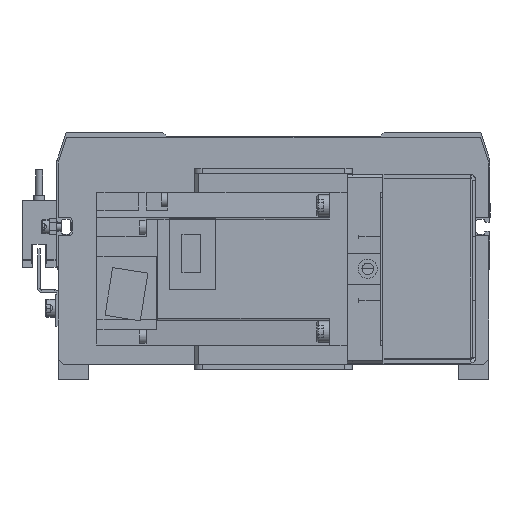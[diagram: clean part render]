
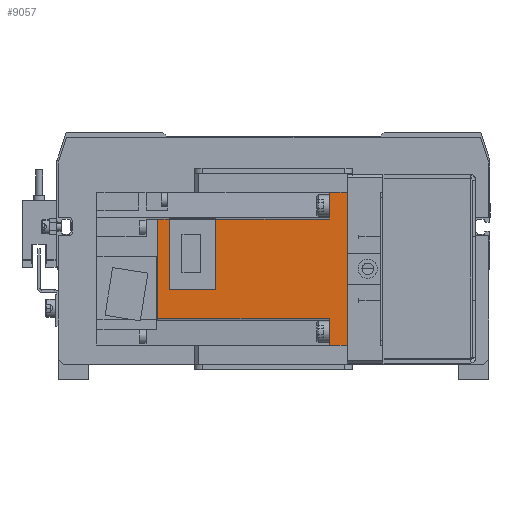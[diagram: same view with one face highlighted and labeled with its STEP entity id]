
A CAD part, front view. The second image highlights one B-rep face of the part: STEP entity #9057.
In plain terms, the highlighted planar face has unit normal (0, -1, 0) as drawn and (1, 0, 0) by its records, which use the part's own axes.
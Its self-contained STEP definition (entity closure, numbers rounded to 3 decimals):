
#1043 = CARTESIAN_POINT ( 'NONE',  ( 30., 0., 30. ) ) ;
#1517 = ORIENTED_EDGE ( 'NONE', *, *, #30009, .F. ) ;
#2231 = LINE ( 'NONE', #39860, #13606 ) ;
#2483 = LINE ( 'NONE', #10497, #6427 ) ;
#2594 = ORIENTED_EDGE ( 'NONE', *, *, #16752, .F. ) ;
#2647 = ORIENTED_EDGE ( 'NONE', *, *, #28562, .F. ) ;
#3951 = CARTESIAN_POINT ( 'NONE',  ( 30., 69.85, 30. ) ) ;
#4611 = LINE ( 'NONE', #23473, #18460 ) ;
#4969 = CARTESIAN_POINT ( 'NONE',  ( 30., 74.5, -19.515 ) ) ;
#5123 = CARTESIAN_POINT ( 'NONE',  ( 30., 69.85, 8. ) ) ;
#6052 = DIRECTION ( 'NONE',  ( 0., 1., 0. ) ) ;
#6427 = VECTOR ( 'NONE', #26511, 1000. ) ;
#6917 = CARTESIAN_POINT ( 'NONE',  ( 30., 7., -30. ) ) ;
#7050 = ORIENTED_EDGE ( 'NONE', *, *, #17536, .F. ) ;
#7630 = DIRECTION ( 'NONE',  ( -1., 0., 0. ) ) ;
#7981 = EDGE_CURVE ( 'NONE', #9200, #20593, #2231, .T. ) ;
#8188 = EDGE_CURVE ( 'NONE', #37064, #9200, #14621, .T. ) ;
#8826 = LINE ( 'NONE', #31583, #36956 ) ;
#9057 = ADVANCED_FACE ( 'NONE', ( #35769 ), #11059, .F. ) ;
#9200 = VERTEX_POINT ( 'NONE', #4969 ) ;
#9651 = VERTEX_POINT ( 'NONE', #20143 ) ;
#9718 = DIRECTION ( 'NONE',  ( 0., 0., -1. ) ) ;
#10448 = CARTESIAN_POINT ( 'NONE',  ( 30., 0., 0. ) ) ;
#10497 = CARTESIAN_POINT ( 'NONE',  ( 30., 7., 30. ) ) ;
#11044 = CARTESIAN_POINT ( 'NONE',  ( 30., 74.5, -30. ) ) ;
#11059 = PLANE ( 'NONE',  #19774 ) ;
#11085 = ORIENTED_EDGE ( 'NONE', *, *, #7981, .F. ) ;
#12065 = CARTESIAN_POINT ( 'NONE',  ( 30., 51.7, -19.515 ) ) ;
#12082 = VERTEX_POINT ( 'NONE', #1043 ) ;
#13204 = DIRECTION ( 'NONE',  ( 0., 0., -1. ) ) ;
#13256 = LINE ( 'NONE', #26354, #40924 ) ;
#13606 = VECTOR ( 'NONE', #36659, 1000. ) ;
#13608 = DIRECTION ( 'NONE',  ( 0., 0., -1. ) ) ;
#13753 = ORIENTED_EDGE ( 'NONE', *, *, #22263, .T. ) ;
#13772 = CARTESIAN_POINT ( 'NONE',  ( 30., 69.85, -19.515 ) ) ;
#13810 = VERTEX_POINT ( 'NONE', #22371 ) ;
#14222 = DIRECTION ( 'NONE',  ( 0., -1., 0. ) ) ;
#14411 = CARTESIAN_POINT ( 'NONE',  ( 30., 74.5, 30. ) ) ;
#14621 = LINE ( 'NONE', #14411, #30420 ) ;
#14879 = ORIENTED_EDGE ( 'NONE', *, *, #28396, .T. ) ;
#14990 = EDGE_CURVE ( 'NONE', #20593, #23879, #26231, .T. ) ;
#15018 = VECTOR ( 'NONE', #20443, 1000. ) ;
#16362 = LINE ( 'NONE', #10448, #23750 ) ;
#16752 = EDGE_CURVE ( 'NONE', #23879, #13810, #8826, .T. ) ;
#17485 = LINE ( 'NONE', #11044, #15018 ) ;
#17536 = EDGE_CURVE ( 'NONE', #23142, #40778, #20654, .T. ) ;
#18460 = VECTOR ( 'NONE', #26524, 1000. ) ;
#19166 = DIRECTION ( 'NONE',  ( 0., -1., 0. ) ) ;
#19434 = CARTESIAN_POINT ( 'NONE',  ( 30., 7., 30. ) ) ;
#19774 = AXIS2_PLACEMENT_3D ( 'NONE', #36332, #7630, #38938 ) ;
#20143 = CARTESIAN_POINT ( 'NONE',  ( 30., 7., -19.515 ) ) ;
#20443 = DIRECTION ( 'NONE',  ( 0., 1., 0. ) ) ;
#20593 = VERTEX_POINT ( 'NONE', #13772 ) ;
#20654 = LINE ( 'NONE', #19434, #28567 ) ;
#20942 = ORIENTED_EDGE ( 'NONE', *, *, #36012, .F. ) ;
#21890 = ORIENTED_EDGE ( 'NONE', *, *, #8188, .F. ) ;
#22051 = EDGE_LOOP ( 'NONE', ( #11085, #21890, #2647, #7050, #23873, #13753, #14879, #1517, #25629, #20942, #2594, #22598 ) ) ;
#22263 = EDGE_CURVE ( 'NONE', #12082, #40453, #16362, .T. ) ;
#22371 = CARTESIAN_POINT ( 'NONE',  ( 30., 51.7, 8. ) ) ;
#22598 = ORIENTED_EDGE ( 'NONE', *, *, #14990, .F. ) ;
#23142 = VERTEX_POINT ( 'NONE', #33224 ) ;
#23473 = CARTESIAN_POINT ( 'NONE',  ( 30., 74.5, 30. ) ) ;
#23750 = VECTOR ( 'NONE', #13204, 1000. ) ;
#23774 = DIRECTION ( 'NONE',  ( 0., 0., -1. ) ) ;
#23873 = ORIENTED_EDGE ( 'NONE', *, *, #28172, .F. ) ;
#23879 = VERTEX_POINT ( 'NONE', #5123 ) ;
#25629 = ORIENTED_EDGE ( 'NONE', *, *, #31090, .F. ) ;
#26231 = LINE ( 'NONE', #3951, #38547 ) ;
#26354 = CARTESIAN_POINT ( 'NONE',  ( 30., 74.5, -19.515 ) ) ;
#26511 = DIRECTION ( 'NONE',  ( 0., 0., -1. ) ) ;
#26524 = DIRECTION ( 'NONE',  ( 0., 1., 0. ) ) ;
#26791 = CARTESIAN_POINT ( 'NONE',  ( 30., 7., 19.515 ) ) ;
#28127 = VERTEX_POINT ( 'NONE', #6917 ) ;
#28172 = EDGE_CURVE ( 'NONE', #12082, #23142, #4611, .T. ) ;
#28396 = EDGE_CURVE ( 'NONE', #40453, #28127, #17485, .T. ) ;
#28562 = EDGE_CURVE ( 'NONE', #40778, #37064, #37158, .T. ) ;
#28567 = VECTOR ( 'NONE', #13608, 1000. ) ;
#29975 = LINE ( 'NONE', #38250, #31462 ) ;
#30009 = EDGE_CURVE ( 'NONE', #9651, #28127, #2483, .T. ) ;
#30420 = VECTOR ( 'NONE', #23774, 1000. ) ;
#30756 = VERTEX_POINT ( 'NONE', #12065 ) ;
#31090 = EDGE_CURVE ( 'NONE', #30756, #9651, #13256, .T. ) ;
#31462 = VECTOR ( 'NONE', #9718, 1000. ) ;
#31583 = CARTESIAN_POINT ( 'NONE',  ( 30., 74.5, 8. ) ) ;
#32559 = CARTESIAN_POINT ( 'NONE',  ( 30., 74.5, 19.515 ) ) ;
#33224 = CARTESIAN_POINT ( 'NONE',  ( 30., 7., 30. ) ) ;
#33702 = CARTESIAN_POINT ( 'NONE',  ( 30., 74.5, 19.515 ) ) ;
#34024 = CARTESIAN_POINT ( 'NONE',  ( 30., 0., -30. ) ) ;
#35769 = FACE_OUTER_BOUND ( 'NONE', #22051, .T. ) ;
#36012 = EDGE_CURVE ( 'NONE', #13810, #30756, #29975, .T. ) ;
#36196 = VECTOR ( 'NONE', #6052, 1000. ) ;
#36332 = CARTESIAN_POINT ( 'NONE',  ( 30., 74.5, 30. ) ) ;
#36659 = DIRECTION ( 'NONE',  ( 0., -1., 0. ) ) ;
#36956 = VECTOR ( 'NONE', #19166, 1000. ) ;
#37064 = VERTEX_POINT ( 'NONE', #32559 ) ;
#37158 = LINE ( 'NONE', #33702, #36196 ) ;
#38250 = CARTESIAN_POINT ( 'NONE',  ( 30., 51.7, 30. ) ) ;
#38547 = VECTOR ( 'NONE', #38575, 1000. ) ;
#38575 = DIRECTION ( 'NONE',  ( 0., 0., 1. ) ) ;
#38938 = DIRECTION ( 'NONE',  ( 0., 0., 1. ) ) ;
#39860 = CARTESIAN_POINT ( 'NONE',  ( 30., 74.5, -19.515 ) ) ;
#40453 = VERTEX_POINT ( 'NONE', #34024 ) ;
#40778 = VERTEX_POINT ( 'NONE', #26791 ) ;
#40924 = VECTOR ( 'NONE', #14222, 1000. ) ;
